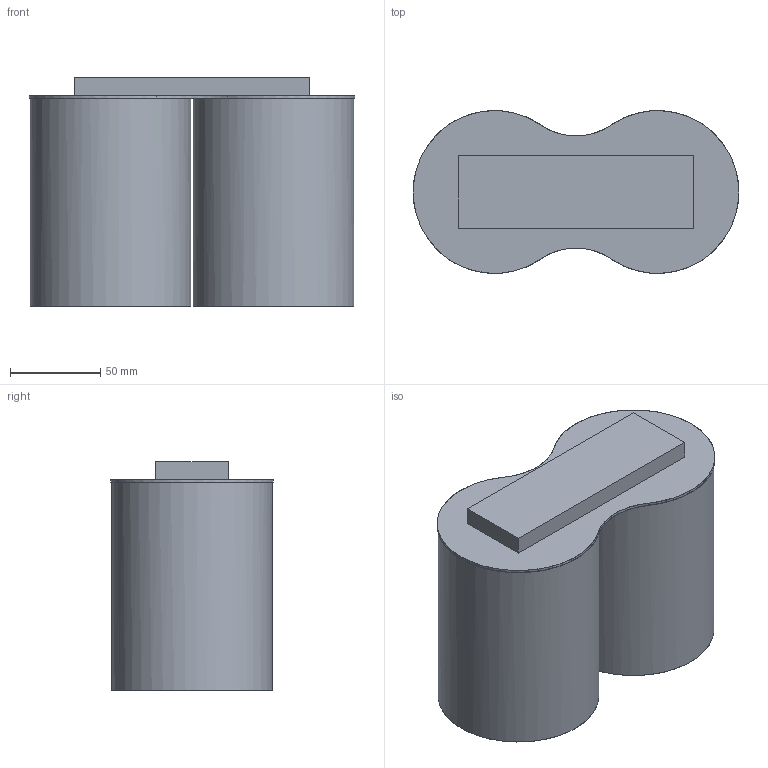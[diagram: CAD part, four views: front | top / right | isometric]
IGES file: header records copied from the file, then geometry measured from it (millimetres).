
Start section: SolidWorks IGES file using NURBS representation for surfaces
Global section: file name: Z:\Modele 3D_WWW\_KOLEKCJE_WWW\EYE-TONE\EYE-TONE-II-8086-8087-8088-7665\EYE-TONE-II-8086-8087-8088-7665.IGS; native system: SolidWorks 2021; preprocessor: SolidWorks 2021; author: gabriela.tworek; date: 211122.120147; units: millimetre
Bounding box: 180 x 89.99 x 126.47 mm (x, y, z)
Surface area: 224992.5 mm2 (no closed solid volume)
Topology: 0 solids, 0 shells, 40 faces, 176 edges, 160 vertices
Faces by surface type: bspline 40
